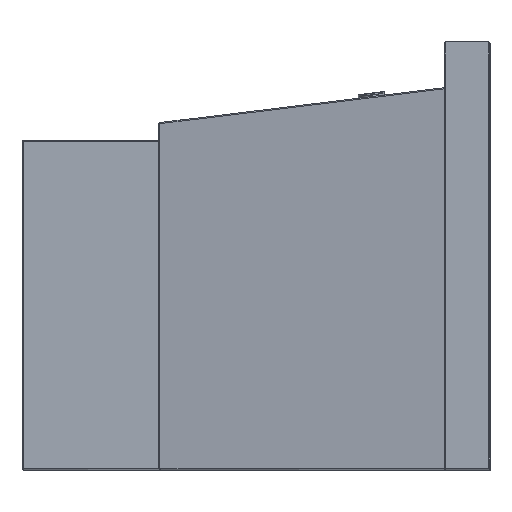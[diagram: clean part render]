
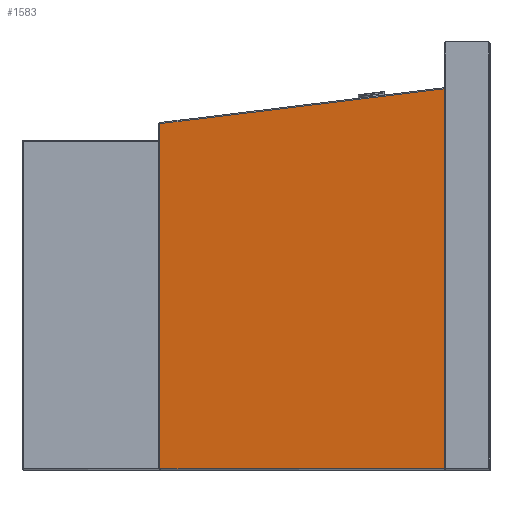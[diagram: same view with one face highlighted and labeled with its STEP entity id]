
A CAD part, left-side view. The second image highlights one B-rep face of the part: STEP entity #1583.
In plain terms, the highlighted planar face has unit normal (-0.993, 0.122, 0).
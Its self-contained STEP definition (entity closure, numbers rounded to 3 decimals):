
#250=DIRECTION('',(0.,0.,1.));
#251=VECTOR('',#250,666.015);
#252=CARTESIAN_POINT('',(-819.5,80.,-373.));
#253=LINE('',#252,#251);
#364=DIRECTION('',(0.,0.,1.));
#365=VECTOR('',#364,604.838);
#366=CARTESIAN_POINT('',(-758.323,578.244,-373.));
#367=LINE('',#366,#365);
#368=DIRECTION('',(-0.121,-0.985,0.121));
#369=VECTOR('',#368,505.7);
#370=CARTESIAN_POINT('',(-758.323,578.244,231.838));
#371=LINE('',#370,#369);
#372=DIRECTION('',(-0.122,-0.993,0.));
#373=VECTOR('',#372,501.985);
#374=CARTESIAN_POINT('',(-758.323,578.244,-373.));
#375=LINE('',#374,#373);
#961=CARTESIAN_POINT('',(-758.323,578.244,-373.));
#962=CARTESIAN_POINT('',(-758.323,578.244,231.838));
#963=VERTEX_POINT('',#961);
#964=VERTEX_POINT('',#962);
#967=CARTESIAN_POINT('',(-819.5,80.,-373.));
#968=VERTEX_POINT('',#967);
#1013=CARTESIAN_POINT('',(-819.5,80.,293.015));
#1014=VERTEX_POINT('',#1013);
#1570=CARTESIAN_POINT('',(-819.5,80.,-400.413));
#1571=DIRECTION('',(-0.993,0.122,0.));
#1572=DIRECTION('',(0.,0.,1.));
#1573=AXIS2_PLACEMENT_3D('',#1570,#1571,#1572);
#1574=PLANE('',#1573);
#1576=ORIENTED_EDGE('',*,*,#1575,.T.);
#1577=ORIENTED_EDGE('',*,*,#1555,.T.);
#1578=ORIENTED_EDGE('',*,*,#1351,.F.);
#1580=ORIENTED_EDGE('',*,*,#1579,.F.);
#1581=EDGE_LOOP('',(#1576,#1577,#1578,#1580));
#1582=FACE_OUTER_BOUND('',#1581,.F.);
#1351=EDGE_CURVE('',#968,#1014,#253,.T.);
#1555=EDGE_CURVE('',#964,#1014,#371,.T.);
#1575=EDGE_CURVE('',#963,#964,#367,.T.);
#1579=EDGE_CURVE('',#963,#968,#375,.T.);
#1583=ADVANCED_FACE('',(#1582),#1574,.T.);
